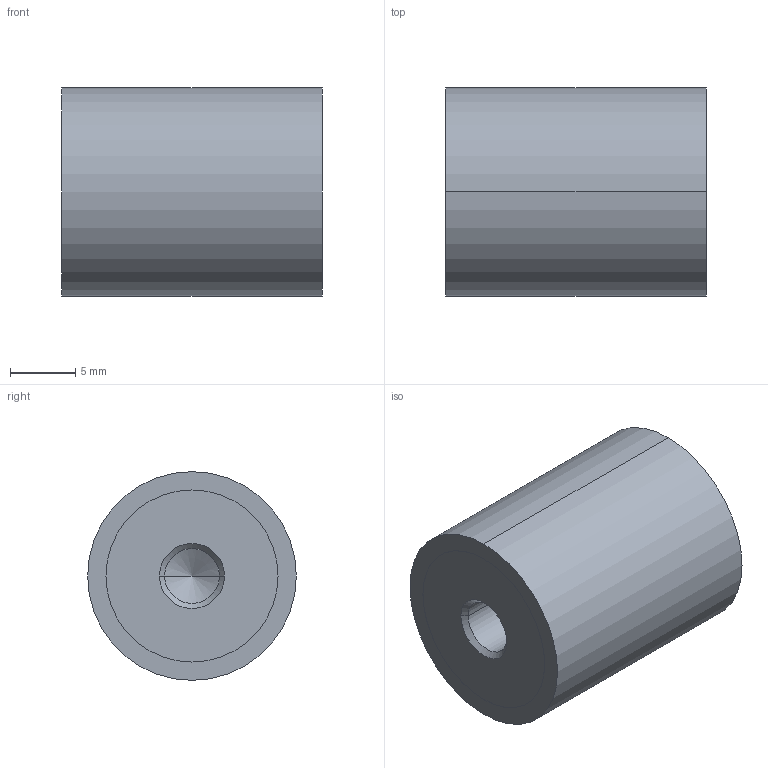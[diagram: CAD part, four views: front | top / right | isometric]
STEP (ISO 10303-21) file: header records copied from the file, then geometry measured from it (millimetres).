
FILE_DESCRIPTION (( 'STEP AP214' ), '1' );
FILE_NAME ('351-16-20-M5-EE-70.step', '2025-07-23T09:39:40', ( '' ), ( '' ), 'SwSTEP 2.0', 'SolidWorks 2022', '' );
FILE_SCHEMA (( 'AUTOMOTIVE_DESIGN' ));
Length unit declared in the file: millimetre
Products named in the file (1): 351-16-20-M5-EE-70
Bounding box: 20 x 16 x 16 mm (x, y, z)
Volume: 3839.7 mm3; surface area: 1564.7 mm2
Topology: 1 solids, 1 shells, 28 faces, 58 edges, 34 vertices
Faces by surface type: cylinder 14, cone 8, plane 6
Entity records: 844 total; most frequent: DIRECTION 144, CARTESIAN_POINT 117, ORIENTED_EDGE 108, AXIS2_PLACEMENT_3D 61, EDGE_CURVE 54, VERTEX_POINT 34, EDGE_LOOP 34, CIRCLE 32
